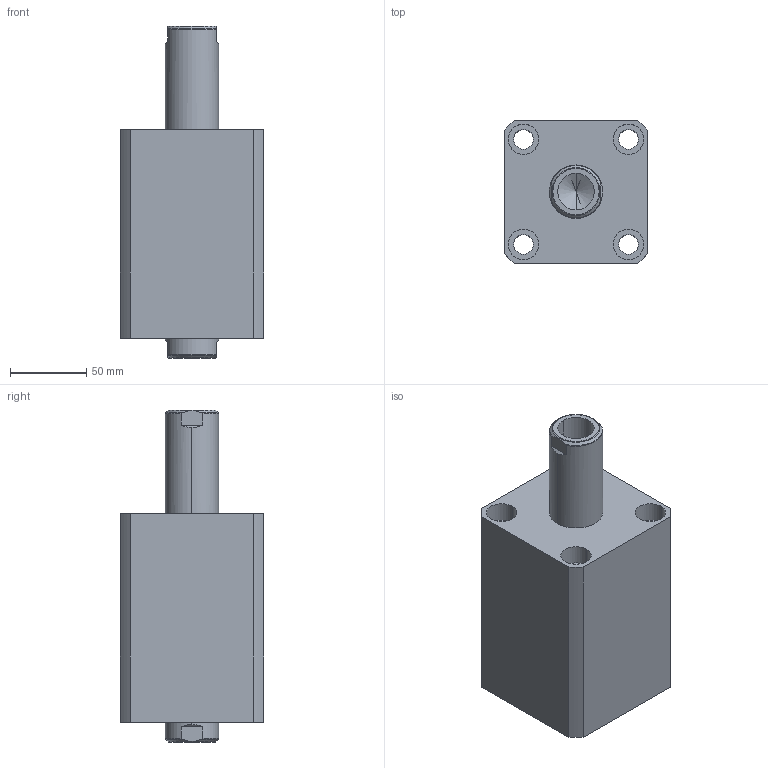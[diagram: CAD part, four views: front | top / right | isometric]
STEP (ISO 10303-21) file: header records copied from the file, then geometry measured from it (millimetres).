
FILE_DESCRIPTION (( 'STEP AP214' ), '1' );
FILE_NAME ('chtb-sw63x55n_asm.STEP', '2018-05-12T02:14:57', ( 'Windows' ), ( 'Microsoft' ), 'SwSTEP 2.0', 'SolidWorks 2015', '' );
FILE_SCHEMA (( 'AUTOMOTIVE_DESIGN' ));
Length unit declared in the file: millimetre
Products named in the file (4): CHTB-SW63X55NBT; CHTB-63QG; CHTB-SW63X55NHSG; chtb-sw63x55n_asm
Assembly tree (3 placements, depth 2):
  chtb-sw63x55n_asm
    CHTB-SW63X55NHSG
    CHTB-63QG
    CHTB-SW63X55NBT
Bounding box: 94 x 94 x 218 mm (x, y, z)
Volume: 1041105 mm3; surface area: 170866.8 mm2
Topology: 3 solids, 3 shells, 184 faces, 515 edges, 349 vertices
Faces by surface type: cylinder 106, plane 38, cone 16, torus 12, bspline 12
Entity records: 18385 total; most frequent: CARTESIAN_POINT 13775, ORIENTED_EDGE 1014, DIRECTION 814, EDGE_CURVE 507, VERTEX_POINT 349, AXIS2_PLACEMENT_3D 331, EDGE_LOOP 220, FACE_OUTER_BOUND 184
